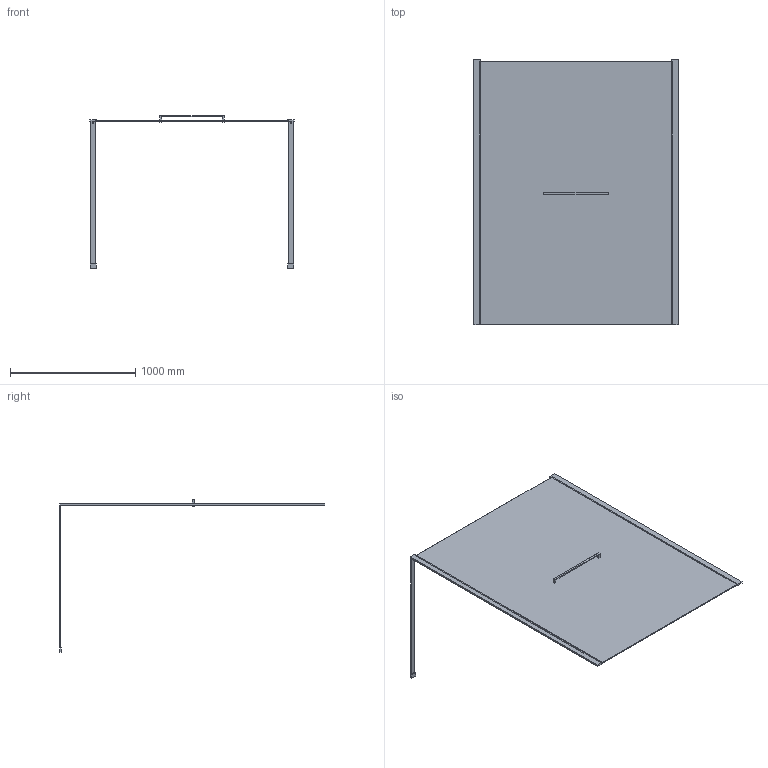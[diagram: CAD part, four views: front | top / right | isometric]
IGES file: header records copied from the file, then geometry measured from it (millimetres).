
Start section: SolidWorks IGES file using analytic representation for surfaces
Global section: file name: D:\Users\M.Szymanski\Desktop\Kabiny\PII_ALT2\03. do przegrania\PII_ALTIIa_160_wspornik poziomy_K3D.IGS; native system: SolidWorks 2011; preprocessor: SolidWorks 2011; author: M.Szymanski; date: 181003.105935; units: millimetre
Bounding box: 1632.8 x 2124.7 x 1220.5 mm (x, y, z)
Surface area: 7475611.6 mm2 (no closed solid volume)
Topology: 0 solids, 0 shells, 70 faces, 440 edges, 556 vertices
Faces by surface type: bspline 62, revolution 8
